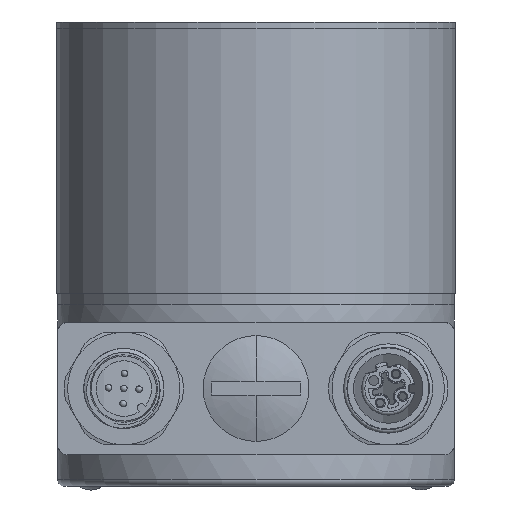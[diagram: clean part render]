
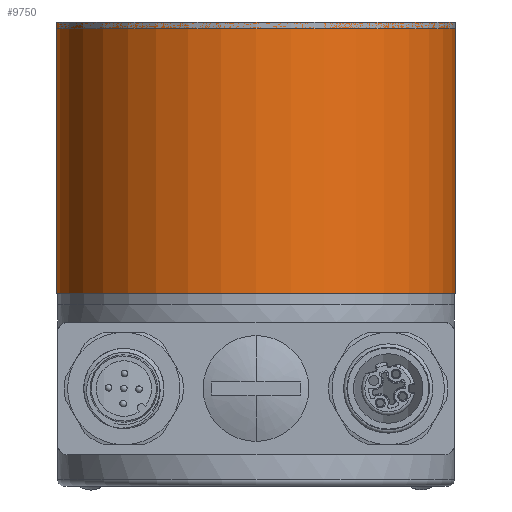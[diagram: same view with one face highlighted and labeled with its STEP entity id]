
A CAD part, front view. The second image highlights one B-rep face of the part: STEP entity #9750.
In plain terms, the highlighted cylindrical face has radius 30.15 mm (diameter 60.3 mm), a partial arc.
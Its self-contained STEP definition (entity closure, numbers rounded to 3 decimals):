
#3712 = DIRECTION ( 'NONE',  ( 1., 0., 0. ) ) ;
#3713 = DIRECTION ( 'NONE',  ( 0., 0., 1. ) ) ;
#3714 = CARTESIAN_POINT ( 'NONE',  ( 0., 0., 0. ) ) ;
#3715 = AXIS2_PLACEMENT_3D ( 'NONE', #3714, #3713, #3712 ) ;
#3716 = CIRCLE ( 'NONE', #3715, 30.15 ) ;
#3756 = DIRECTION ( 'NONE',  ( 0., 0., -1. ) ) ;
#3757 = CARTESIAN_POINT ( 'NONE',  ( 0., 0., 41. ) ) ;
#3758 = AXIS2_PLACEMENT_3D ( 'NONE', #3757, #3756, #3808 ) ;
#3759 = CYLINDRICAL_SURFACE ( 'NONE', #3758, 30.15 ) ;
#3760 = FACE_OUTER_BOUND ( 'NONE', #9688, .T. ) ;
#3808 = DIRECTION ( 'NONE',  ( -1., 0., 0. ) ) ;
#3869 = DIRECTION ( 'NONE',  ( 1., 0., 0. ) ) ;
#3870 = DIRECTION ( 'NONE',  ( 0., 0., 1. ) ) ;
#3871 = CARTESIAN_POINT ( 'NONE',  ( 0., 0., 41. ) ) ;
#3872 = AXIS2_PLACEMENT_3D ( 'NONE', #3871, #3870, #3869 ) ;
#3873 = CIRCLE ( 'NONE', #3872, 30.15 ) ;
#3876 = LINE ( 'NONE', #3924, #3923 ) ;
#3883 = CARTESIAN_POINT ( 'NONE',  ( -30.15, 0., 0. ) ) ;
#3922 = DIRECTION ( 'NONE',  ( 0., 0., -1. ) ) ;
#3923 = VECTOR ( 'NONE', #3922, 1000. ) ;
#3924 = CARTESIAN_POINT ( 'NONE',  ( -30.15, 0., 41. ) ) ;
#3928 = CARTESIAN_POINT ( 'NONE',  ( -30.15, 0., 41. ) ) ;
#3929 = CARTESIAN_POINT ( 'NONE',  ( 30.15, 0., 41. ) ) ;
#3930 = DIRECTION ( 'NONE',  ( 0., 0., -1. ) ) ;
#3931 = VECTOR ( 'NONE', #3930, 1000. ) ;
#3932 = CARTESIAN_POINT ( 'NONE',  ( 30.15, 0., 41. ) ) ;
#3933 = LINE ( 'NONE', #3932, #3931 ) ;
#3945 = CARTESIAN_POINT ( 'NONE',  ( 30.15, 0., 0. ) ) ;
#9688 = EDGE_LOOP ( 'NONE', ( #9795, #9796, #9783, #9822 ) ) ;
#9719 = EDGE_CURVE ( 'NONE', #9810, #9827, #3716, .T. ) ;
#9750 = ADVANCED_FACE ( 'NONE', ( #3760 ), #3759, .T. ) ;
#9783 = ORIENTED_EDGE ( 'NONE', *, *, #9812, .T. ) ;
#9787 = EDGE_CURVE ( 'NONE', #9838, #9837, #3873, .T. ) ;
#9795 = ORIENTED_EDGE ( 'NONE', *, *, #9836, .F. ) ;
#9796 = ORIENTED_EDGE ( 'NONE', *, *, #9787, .F. ) ;
#9810 = VERTEX_POINT ( 'NONE', #3883 ) ;
#9812 = EDGE_CURVE ( 'NONE', #9838, #9810, #3876, .T. ) ;
#9822 = ORIENTED_EDGE ( 'NONE', *, *, #9719, .T. ) ;
#9827 = VERTEX_POINT ( 'NONE', #3945 ) ;
#9836 = EDGE_CURVE ( 'NONE', #9837, #9827, #3933, .T. ) ;
#9837 = VERTEX_POINT ( 'NONE', #3929 ) ;
#9838 = VERTEX_POINT ( 'NONE', #3928 ) ;
